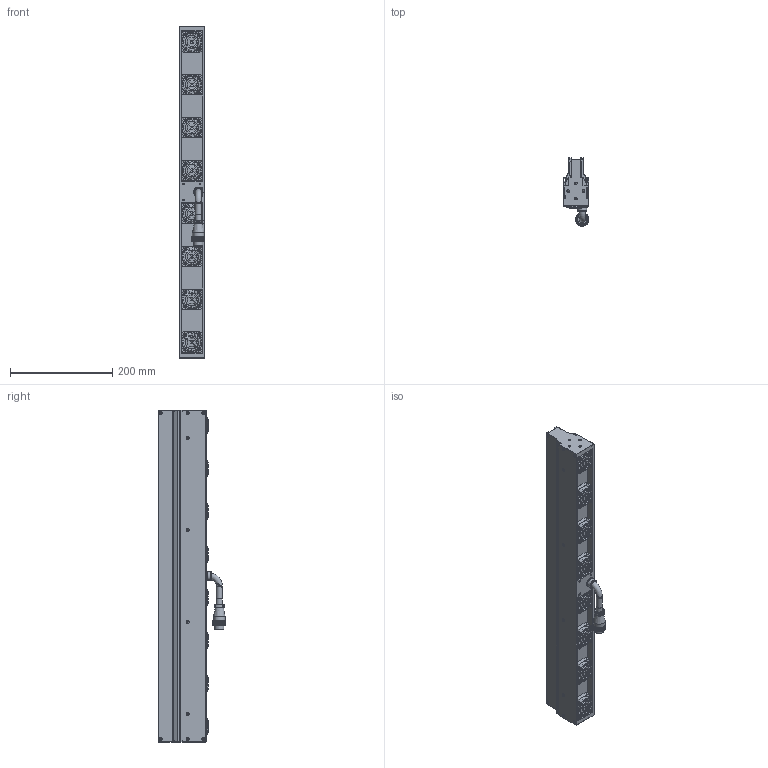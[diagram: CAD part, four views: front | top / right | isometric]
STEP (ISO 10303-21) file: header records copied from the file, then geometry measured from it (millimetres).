
FILE_DESCRIPTION (( 'STEP AP203' ), '1' );
FILE_NAME ('OPT-LSS650-W-V3.1尨砩芞.STEP', '2025-01-21T06:29:03', ( 'USER' ), ( '' ), 'SwSTEP 2.0', 'SolidWorks 2016', '' );
FILE_SCHEMA (( 'CONFIG_CONTROL_DESIGN' ));
Products named in the file (2): OPT-LSS650-W-V3.1尨砩芞
Bounding box: 50.6 x 133 x 650 mm (x, y, z)
Volume: 2211613.7 mm3; surface area: 359418.1 mm2
Topology: 37 solids, 45 shells, 3602 faces, 9013 edges, 5667 vertices
Faces by surface type: bspline 1159, cylinder 1091, plane 845, torus 452, cone 55
Full cylindrical faces by diameter (mm): 1 x2, 1.1 x2, 1.4 x2, 1.6 x32, 2 x8, 2.5 x24, 3 x4, 3.2 x36, 3.4 x20, 3.5 x4, 5 x8, 6.2 x32, 8 x1, 11.6 x1, 11.7 x3, 12 x1, 15 x1, 15.9 x1, 17.5 x1, 18 x1, 18.5 x1, 22.8 x1, 24 x1, 24.8 x8, 38 x8
Entity records: 130654 total; most frequent: CARTESIAN_POINT 58429, ORIENTED_EDGE 16906, DIRECTION 10757, EDGE_CURVE 8453, VERTEX_POINT 5546, B_SPLINE_CURVE_WITH_KNOTS 4641, AXIS2_PLACEMENT_3D 4508, EDGE_LOOP 4249
